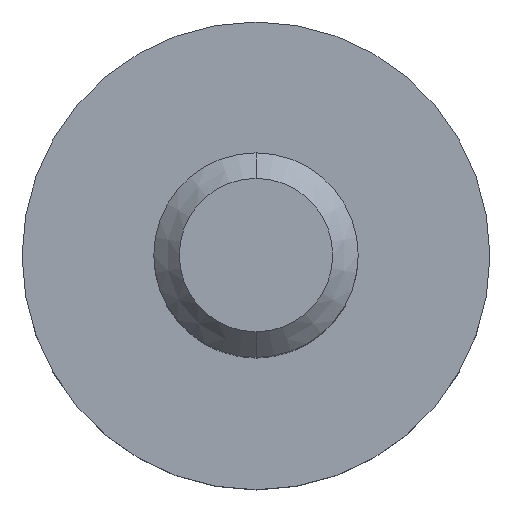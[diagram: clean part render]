
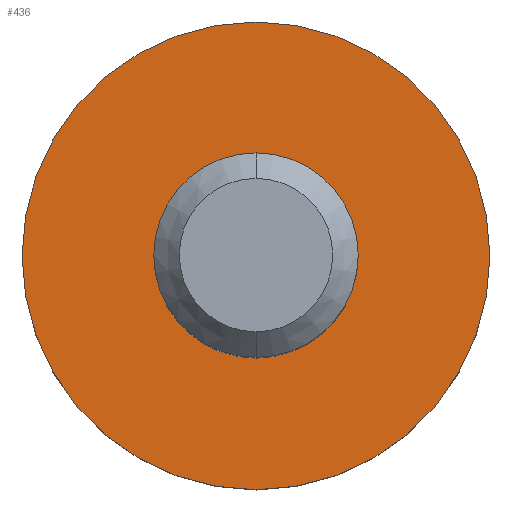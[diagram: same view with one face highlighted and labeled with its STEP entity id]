
A CAD part, top view. The second image highlights one B-rep face of the part: STEP entity #436.
In plain terms, the highlighted planar face has unit normal (0, 0, 1).
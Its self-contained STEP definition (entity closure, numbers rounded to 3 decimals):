
#113=CARTESIAN_POINT('',(0.,0.,-1.8));
#114=DIRECTION('',(0.,0.,1.));
#115=DIRECTION('',(0.,1.,0.));
#116=AXIS2_PLACEMENT_3D('',#113,#114,#115);
#118=CARTESIAN_POINT('',(0.,0.,-1.8));
#119=DIRECTION('',(0.,0.,-1.));
#120=DIRECTION('',(0.,1.,0.));
#121=AXIS2_PLACEMENT_3D('',#118,#119,#120);
#123=CARTESIAN_POINT('',(0.,0.,-1.8));
#124=DIRECTION('',(0.,0.,-1.));
#125=DIRECTION('',(0.,1.,0.));
#126=AXIS2_PLACEMENT_3D('',#123,#124,#125);
#136=CARTESIAN_POINT('',(0.,0.,-1.8));
#137=DIRECTION('',(0.,0.,1.));
#138=DIRECTION('',(0.,1.,0.));
#139=AXIS2_PLACEMENT_3D('',#136,#137,#138);
#208=CARTESIAN_POINT('',(0.,0.915,-1.8));
#210=VERTEX_POINT('',#208);
#211=CARTESIAN_POINT('',(0.,0.4,-1.8));
#213=VERTEX_POINT('',#211);
#234=CARTESIAN_POINT('',(0.,-0.915,-1.8));
#236=VERTEX_POINT('',#234);
#237=CARTESIAN_POINT('',(0.,-0.4,-1.8));
#239=VERTEX_POINT('',#237);
#421=CARTESIAN_POINT('',(0.,0.,-1.8));
#422=DIRECTION('',(0.,0.,-1.));
#423=DIRECTION('',(0.,-1.,0.));
#424=AXIS2_PLACEMENT_3D('',#421,#422,#423);
#425=PLANE('',#424);
#426=ORIENTED_EDGE('',*,*,#414,.F.);
#427=ORIENTED_EDGE('',*,*,#403,.T.);
#428=EDGE_LOOP('',(#426,#427));
#429=FACE_OUTER_BOUND('',#428,.F.);
#431=ORIENTED_EDGE('',*,*,#430,.F.);
#433=ORIENTED_EDGE('',*,*,#432,.T.);
#434=EDGE_LOOP('',(#431,#433));
#435=FACE_BOUND('',#434,.F.);
#436=ADVANCED_FACE('',(#429,#435),#425,.F.);
#117=CIRCLE('',#116,0.915);
#122=CIRCLE('',#121,0.915);
#127=CIRCLE('',#126,0.4);
#140=CIRCLE('',#139,0.4);
#403=EDGE_CURVE('',#210,#236,#122,.T.);
#414=EDGE_CURVE('',#210,#236,#117,.T.);
#430=EDGE_CURVE('',#213,#239,#127,.T.);
#432=EDGE_CURVE('',#213,#239,#140,.T.);
